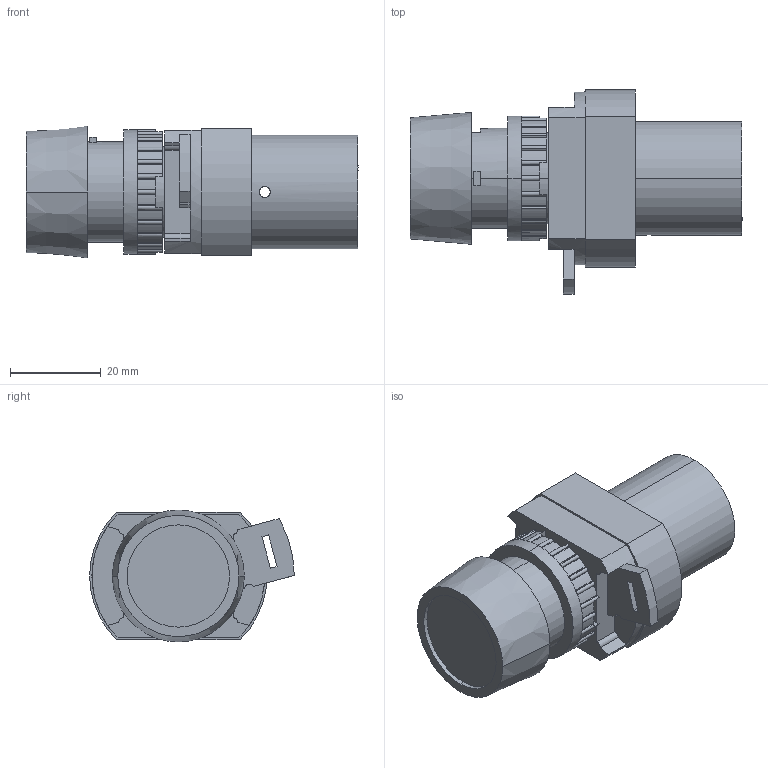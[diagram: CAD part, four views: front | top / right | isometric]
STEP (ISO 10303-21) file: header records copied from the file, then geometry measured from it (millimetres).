
FILE_DESCRIPTION (( 'STEP AP203' ), '1' );
FILE_NAME ('18-T-23-011_T-30-310-Airtec.step', '2006-10-31T13:13:21', ( 'Gustaf Hederström' ), ( 'Cevican AB' ), 'SwSTEP 2.0', 'SolidWorks 2002308', '' );
FILE_SCHEMA (( 'CONFIG_CONTROL_DESIGN' ));
Length unit declared in the file: millimetre
Products named in the file (3): 18-T-23-011_T-30-310-Airtec; 18-T-23-011-Airtec; T-30-310-Airtec
Assembly tree (2 placements, depth 2):
  18-T-23-011_T-30-310-Airtec
    18-T-23-011-Airtec
    T-30-310-Airtec
Bounding box: 73 x 45 x 29 mm (x, y, z)
Volume: 42676.8 mm3; surface area: 12639.4 mm2
Topology: 2 solids, 2 shells, 292 faces, 802 edges, 521 vertices
Faces by surface type: cylinder 155, plane 127, cone 8, bspline 2
Entity records: 9774 total; most frequent: DIRECTION 1773, CARTESIAN_POINT 1712, ORIENTED_EDGE 1592, EDGE_CURVE 796, AXIS2_PLACEMENT_3D 686, VERTEX_POINT 521, LINE 401, VECTOR 401
